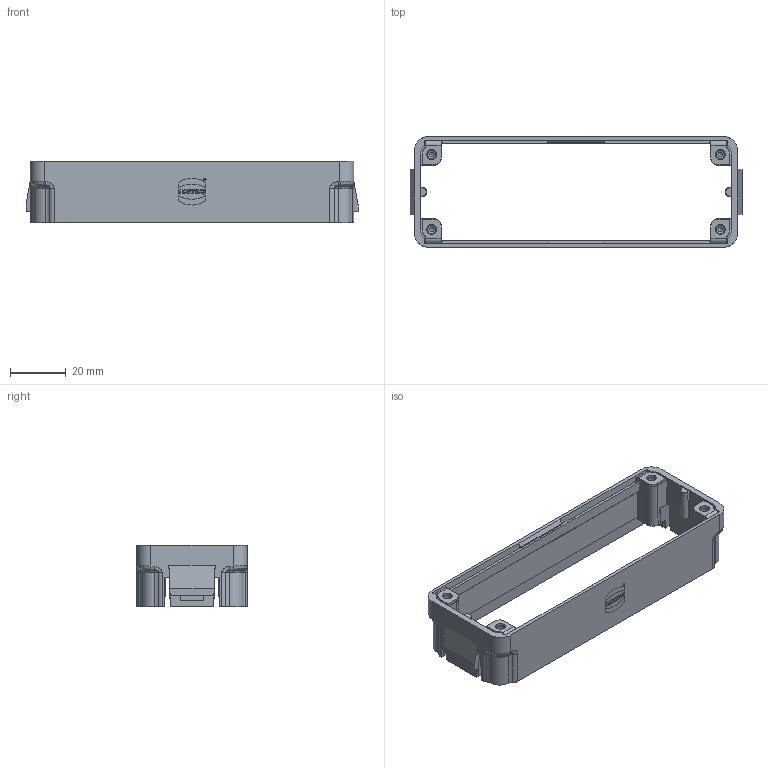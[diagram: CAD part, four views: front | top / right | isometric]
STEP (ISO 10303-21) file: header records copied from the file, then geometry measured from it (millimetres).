
FILE_DESCRIPTION(/* description */ (''),/* implementation_level */ '2;1');
FILE_NAME(/* name */ '100820580ugm000_a.stp',/* time_stamp */ '2022-03-12T09:11:30+01:00',/* author */ (''),/* organization */ (''),/* preprocessor_version */ 'ST-DEVELOPER v16.7',/* originating_system */ 'SIEMENS PLM Software NX 1911',/* authorisation */ '');
FILE_SCHEMA (('AUTOMOTIVE_DESIGN { 1 0 10303 214 3 1 1 1 }'));
Products named in the file (1): 100820580ugm000_a
Bounding box: 119.6 x 39.8 x 22.25 mm (x, y, z)
Volume: 18141.7 mm3; surface area: 18258.1 mm2
Topology: 1 solids, 1 shells, 416 faces, 10609 edges, 19113 vertices
Faces by surface type: plane 234, cylinder 92, bspline 44, cone 42, torus 4
Full cylindrical faces by diameter (mm): 1.8 x4, 3 x4, 3.4 x4, 3.5 x4
Entity records: 101099 total; most frequent: CARTESIAN_POINT 33329, PRESENTATION_STYLE_ASSIGNMENT 8981, STYLED_ITEM 8847, CURVE_STYLE 8834, DRAUGHTING_PRE_DEFINED_CURVE_FONT 8834, B_SPLINE_CURVE_WITH_KNOTS 6533, DIRECTION 5040, LINE 3770
